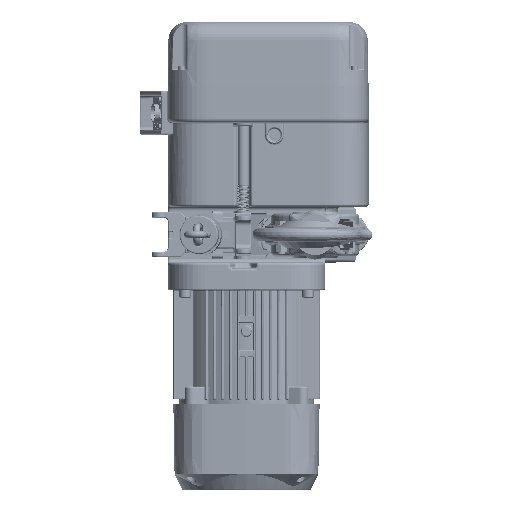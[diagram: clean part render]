
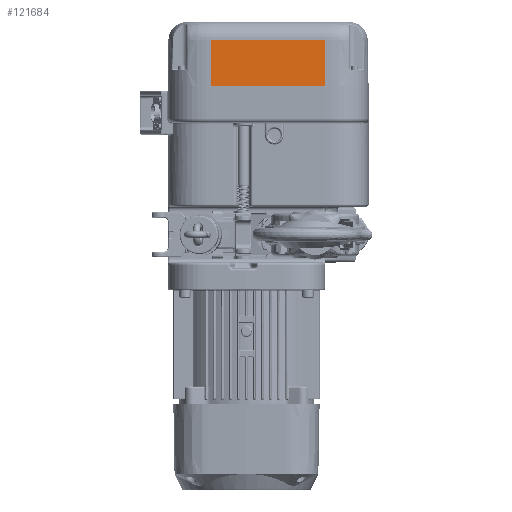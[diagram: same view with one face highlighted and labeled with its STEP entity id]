
A CAD part, front view. The second image highlights one B-rep face of the part: STEP entity #121684.
In plain terms, the highlighted planar face has unit normal (0, -1, 0.018).
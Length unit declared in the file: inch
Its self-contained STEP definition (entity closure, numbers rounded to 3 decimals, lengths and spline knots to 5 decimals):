
#5103 = CARTESIAN_POINT ( 'NONE',  ( -3.53868, -5.21654, 0. ) ) ;
#14587 = EDGE_CURVE ( 'NONE', #123654, #205494, #130613, .T. ) ;
#15271 = CARTESIAN_POINT ( 'NONE',  ( -3.53868, -5.21654, 0. ) ) ;
#21674 = ORIENTED_EDGE ( 'NONE', *, *, #199361, .F. ) ;
#31439 = DIRECTION ( 'NONE',  ( -1., 0., 0. ) ) ;
#31962 = ORIENTED_EDGE ( 'NONE', *, *, #14587, .T. ) ;
#49923 = CARTESIAN_POINT ( 'NONE',  ( 0., -5.1674, 2.8152 ) ) ;
#50063 = CARTESIAN_POINT ( 'NONE',  ( 3.53868, -5.21654, 0. ) ) ;
#51840 = EDGE_LOOP ( 'NONE', ( #21674, #31962, #58307, #126536 ) ) ;
#52485 = LINE ( 'NONE', #5103, #84877 ) ;
#54422 = CARTESIAN_POINT ( 'NONE',  ( 0., -5.21654, 0. ) ) ;
#57619 = LINE ( 'NONE', #193920, #177097 ) ;
#58307 = ORIENTED_EDGE ( 'NONE', *, *, #136723, .T. ) ;
#63773 = AXIS2_PLACEMENT_3D ( 'NONE', #54422, #150256, #120060 ) ;
#70747 = DIRECTION ( 'NONE',  ( 0., -0.017, -1. ) ) ;
#81342 = VECTOR ( 'NONE', #189417, 39.37008 ) ;
#84877 = VECTOR ( 'NONE', #70747, 39.37008 ) ;
#115575 = DIRECTION ( 'NONE',  ( -1., 0., 0. ) ) ;
#116276 = VERTEX_POINT ( 'NONE', #15271 ) ;
#120060 = DIRECTION ( 'NONE',  ( 0., -0.017, -1. ) ) ;
#121684 = ADVANCED_FACE ( 'NONE', ( #152357 ), #203960, .T. ) ;
#121756 = EDGE_CURVE ( 'NONE', #180884, #116276, #57619, .T. ) ;
#123654 = VERTEX_POINT ( 'NONE', #185978 ) ;
#126536 = ORIENTED_EDGE ( 'NONE', *, *, #121756, .F. ) ;
#130613 = LINE ( 'NONE', #49923, #169204 ) ;
#136723 = EDGE_CURVE ( 'NONE', #205494, #116276, #52485, .T. ) ;
#138557 = CARTESIAN_POINT ( 'NONE',  ( -3.53868, -5.1674, 2.8152 ) ) ;
#139936 = LINE ( 'NONE', #174354, #81342 ) ;
#150256 = DIRECTION ( 'NONE',  ( 0., -1., 0.017 ) ) ;
#152357 = FACE_OUTER_BOUND ( 'NONE', #51840, .T. ) ;
#169204 = VECTOR ( 'NONE', #115575, 39.37008 ) ;
#174354 = CARTESIAN_POINT ( 'NONE',  ( 3.53868, -5.21654, 0. ) ) ;
#177097 = VECTOR ( 'NONE', #31439, 39.37008 ) ;
#180884 = VERTEX_POINT ( 'NONE', #50063 ) ;
#185978 = CARTESIAN_POINT ( 'NONE',  ( 3.53868, -5.1674, 2.8152 ) ) ;
#189417 = DIRECTION ( 'NONE',  ( 0., -0.017, -1. ) ) ;
#193920 = CARTESIAN_POINT ( 'NONE',  ( 0., -5.21654, 0. ) ) ;
#199361 = EDGE_CURVE ( 'NONE', #123654, #180884, #139936, .T. ) ;
#203960 = PLANE ( 'NONE',  #63773 ) ;
#205494 = VERTEX_POINT ( 'NONE', #138557 ) ;
